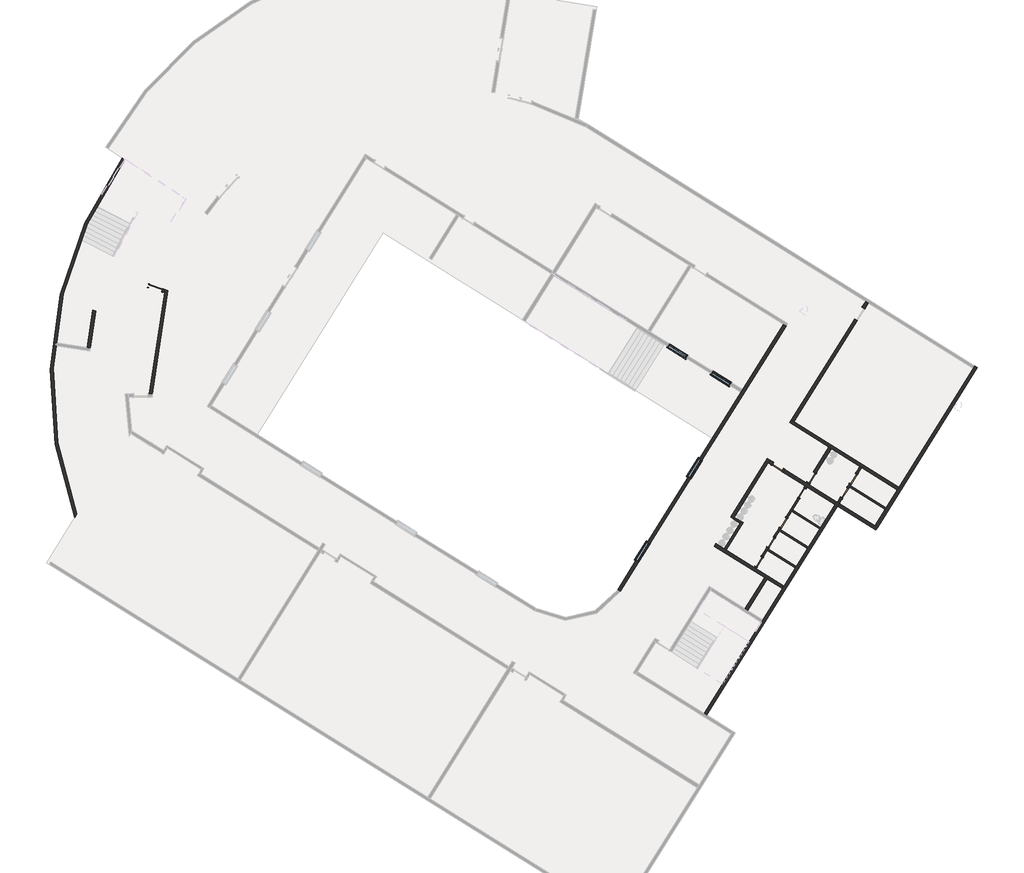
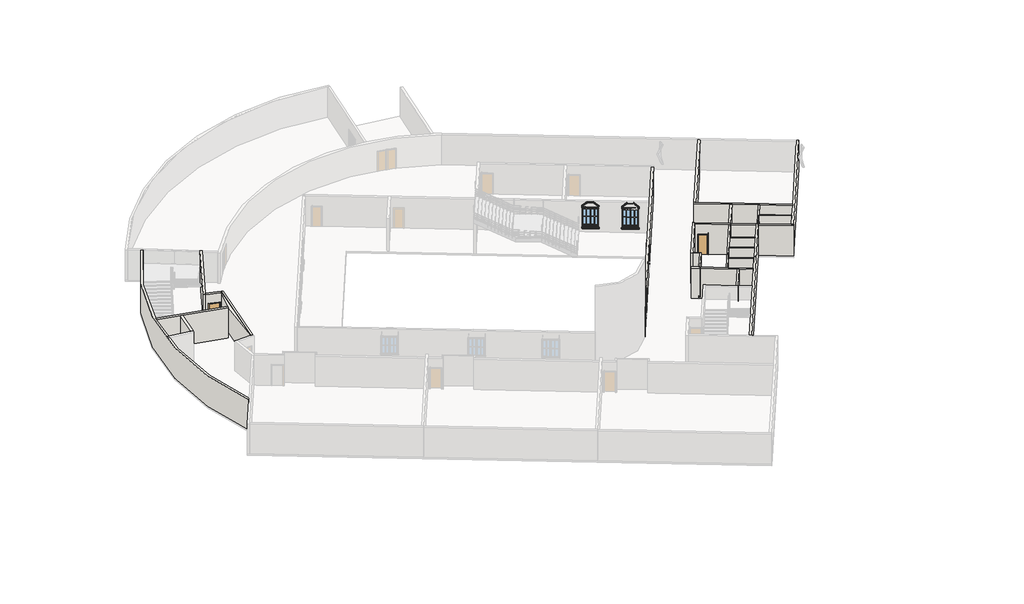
# One storey, part 2 of 4: 25 walls, 9 doors, 4 windows.
"""IFC4 building model written with IfcOpenShell, lengths in millimetres."""

from ifc_helpers import new_model, si_unit, frame, origin, place, context, project, spatial, polyline, circle_curve, outline, extrude, faceted_brep, transform, mapped, element, save
from ifc_brep_helpers import plane_surface, cylinder_surface, revolved_surface, advanced_brep
from components import m_single_flush_0762_x_2032mm_e53dc8c7, m_single_flush_0762_x_2032mm_1c354163, m_single_flush_0762_x_2032mm_0c256fab, m_single_flush_0915_x_2134mm_727434cd, m_window_casement_double_1400_x_1800mm_877d247a, m_window_casement_double_1400_x_1800mm_eb8f2d9a

model = new_model("IFC4")

# Units and contexts
model_context = context("Model", 3, world=origin())
ifc_project = project(units=[si_unit("LENGTHUNIT", "METRE", prefix="MILLI")], contexts=[model_context])

# Site, building, storey
site = spatial("IfcSite", under=ifc_project)
building = spatial("IfcBuilding", under=site)
storey = spatial("IfcBuildingStorey", under=building, Name="\u200fمنفی", Elevation=-3600.0)

# Doors
placement = place(None, origin())
m_single_flush_0762_x_2032mm_shape = m_single_flush_0762_x_2032mm_e53dc8c7(model_context)
element("IfcDoor", 1, ObjectType="M_Single-Flush : 0762 x 2032mm", at=placement, inside=storey, context=model_context, shape_type="MappedRepresentation", body=[
    mapped(m_single_flush_0762_x_2032mm_shape, transform((56199.6460159, -40782.0527704, -3600.0), x_axis=(-0.5299192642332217, -0.8480480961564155, 0.0), y_axis=(0.8480480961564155, -0.5299192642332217, 0.0), z_axis=(0.0, 0.0, 1.0))),
])
element("IfcDoor", 2, ObjectType="M_Single-Flush : 0762 x 2032mm", at=placement, inside=storey, context=model_context, shape_type="MappedRepresentation", body=[
    mapped(m_single_flush_0762_x_2032mm_shape, transform((52799.2588215, -41725.4772336, -3600.0), x_axis=(0.5299192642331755, 0.8480480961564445, 0.0), y_axis=(-0.8480480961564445, 0.5299192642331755, 0.0), z_axis=(0.0, 0.0, 1.0))),
])
element("IfcDoor", 3, ObjectType="M_Single-Flush : 0762 x 2032mm", at=placement, inside=storey, context=model_context, shape_type="MappedRepresentation", body=[
    mapped(m_single_flush_0762_x_2032mm_shape, transform((51568.7862899, -43694.6449128, -3600.0), x_axis=(-0.5299192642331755, -0.8480480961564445, 0.0), y_axis=(0.8480480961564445, -0.5299192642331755, 0.0), z_axis=(0.0, 0.0, 1.0))),
])
element("IfcDoor", 4, ObjectType="M_Single-Flush : 0762 x 2032mm", at=placement, inside=storey, context=model_context, shape_type="MappedRepresentation", body=[
    mapped(m_single_flush_0762_x_2032mm_shape, transform((50761.1893312, -44987.0702114, -3600.0), x_axis=(-0.5299192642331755, -0.8480480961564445, 0.0), y_axis=(0.8480480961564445, -0.5299192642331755, 0.0), z_axis=(0.0, 0.0, 1.0))),
])
element("IfcDoor", 5, ObjectType="M_Single-Flush : 0762 x 2032mm", at=placement, inside=storey, context=model_context, shape_type="MappedRepresentation", body=[
    mapped(m_single_flush_0762_x_2032mm_shape, transform((49953.5923725, -46279.4955099, -3600.0), x_axis=(-0.5299192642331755, -0.8480480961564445, 0.0), y_axis=(0.8480480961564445, -0.5299192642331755, 0.0), z_axis=(0.0, 0.0, 1.0))),
])
m_single_flush_0762_x_2032mm_2_shape = m_single_flush_0762_x_2032mm_1c354163(model_context)
element("IfcDoor", 6, ObjectType="M_Single-Flush : 0762 x 2032mm", at=placement, inside=storey, context=model_context, shape_type="MappedRepresentation", body=[
    mapped(m_single_flush_0762_x_2032mm_2_shape, transform((55624.1536949, -41703.0330029, -3600.0), x_axis=(0.5299192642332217, 0.8480480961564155, 0.0), y_axis=(-0.8480480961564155, 0.5299192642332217, 0.0), z_axis=(0.0, 0.0, 1.0))),
])
m_single_flush_0762_x_2032mm_3_shape = m_single_flush_0762_x_2032mm_0c256fab(model_context)
element("IfcDoor", 7, ObjectType="M_Single-Flush : 0762 x 2032mm", at=placement, inside=storey, context=model_context, shape_type="MappedRepresentation", body=[
    mapped(m_single_flush_0762_x_2032mm_3_shape, transform((53436.3159523, -40706.1822692, -3600.0), x_axis=(-0.5299192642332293, -0.8480480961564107, 0.0), y_axis=(0.8480480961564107, -0.5299192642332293, 0.0), z_axis=(0.0, 0.0, 1.0))),
])
element("IfcDoor", 8, ObjectType="M_Single-Flush : 0762 x 2032mm", at=placement, inside=storey, context=model_context, shape_type="MappedRepresentation", body=[
    mapped(m_single_flush_0762_x_2032mm_3_shape, transform((51200.5159697, -39994.2020354, -3600.0), x_axis=(-0.8480480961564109, 0.5299192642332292, 0.0), y_axis=(-0.5299192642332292, -0.8480480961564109, 0.0), z_axis=(0.0, 0.0, 1.0))),
])
m_single_flush_0915_x_2134mm_shape = m_single_flush_0915_x_2134mm_727434cd(model_context)
element("IfcDoor", 9, ObjectType="M_Single-Flush : 0915 x 2134mm", at=placement, inside=storey, context=model_context, shape_type="MappedRepresentation", body=[
    mapped(m_single_flush_0915_x_2134mm_shape, transform((10046.2970792, -28155.5122882, -3600.0), x_axis=(-0.9492034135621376, 0.3146631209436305, 0.0), y_axis=(-0.3146631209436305, -0.9492034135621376, 0.0), z_axis=(0.0, 0.0, 1.0))),
])

# Walls
element("IfcWall", 10, ObjectType="Generic - 200mm", at=placement, inside=storey, context=model_context, shape_type="AdvancedBrep", body=[
    advanced_brep(
    [(12127.9583762, -22106.4886885, -3600.0), (12295.5409419, -22216.1392689, -3600.0), (9371.3471797, -27826.3938849, -3600.0), (9307.5063397, -28015.9529504, -3600.0), (9117.665657, -27953.0203262, -3600.0), (12010.6126533, -22268.7384634, -3600.0), (9117.665657, -27953.0203262, -450.0), (12010.6232883, -22268.7232659, -450.0), (12127.9583762, -22106.4886885, -450.0), (12295.5409419, -22216.1392689, -450.0), (9371.3410113, -27826.4112985, -450.0), (9307.5063397, -28015.9529504, -450.0)],
    [
        (0, 1),
        (1, 2, circle_curve(frame((29284.4488792, -34638.3554793, -3600.0), z_axis=(0.0, 0.0, 1.0), x_axis=(1.0, 0.0, 0.0)), 21046.0078989)),
        (2, 3, circle_curve(frame((29284.4488792, -34638.3554793, -3600.0), z_axis=(0.0, 0.0, 1.0), x_axis=(1.0, 0.0, 0.0)), 21046.0076988)),
        (3, 4),
        (4, 5, circle_curve(frame((29284.4488792, -34638.3554793, -3600.0), z_axis=(0.0, 0.0, -1.0), x_axis=(1.0, 0.0, 0.0)), 21246.0078989)),
        (5, 0, circle_curve(frame((29284.4488792, -34638.3554793, -3600.0), z_axis=(0.0, 0.0, -1.0), x_axis=(1.0, 0.0, 0.0)), 21246.0076974)),
        (6, 7, circle_curve(frame((29284.4488792, -34638.3554793, -450.0), z_axis=(0.0, 0.0, -1.0), x_axis=(1.0, 0.0, 0.0)), 21246.0078989)),
        (7, 8, circle_curve(frame((29284.4488792, -34638.3554793, -450.0), z_axis=(0.0, 0.0, -1.0), x_axis=(1.0, 0.0, 0.0)), 21246.0078989)),
        (8, 0),
        (4, 6),
        (9, 10, circle_curve(frame((29284.4488792, -34638.3554793, -450.0), z_axis=(0.0, 0.0, 1.0), x_axis=(1.0, 0.0, 0.0)), 21046.0078989)),
        (10, 11, circle_curve(frame((29284.4488792, -34638.3554793, -450.0), z_axis=(0.0, 0.0, 1.0), x_axis=(1.0, 0.0, 0.0)), 21046.0078989)),
        (11, 3),
        (1, 9),
        (8, 9),
        (11, 6),
    ],
    [
        plane_surface(frame((50530.456778, -34638.3554793, -3600.0), z_axis=(0.0, 0.0, -1.0), x_axis=(0.0, -1.0, 0.0))),
        cylinder_surface(frame((29284.4488792, -34638.3554793, -3600.0), z_axis=(0.0, 0.0, 1.0), x_axis=(1.0, 0.0, 0.0)), 21246.0078989),
        revolved_surface(polyline([(50330.4567781, -34638.3554793, -3600.0), (50330.4567781, -34638.3554793, -450.0)]), (29284.4488792, -34638.3554793, -3600.0), (0.0, 0.0, -1.0)),
        plane_surface(frame((8116.6170805, -19481.8367786, -3600.0), z_axis=(0.5475199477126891, 0.8367926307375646, 0.0), x_axis=(-0.8367926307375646, 0.5475199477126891, 0.0))),
        plane_surface(frame((9117.665657, -27953.0203262, -3600.0), z_axis=(-0.3146631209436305, -0.9492034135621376, 0.0), x_axis=(0.9492034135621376, -0.3146631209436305, 0.0))),
        plane_surface(frame((44363.2360879, -73226.0361772, -450.0), z_axis=(0.0, 0.0, 1.0), x_axis=(-0.8480480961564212, 0.5299192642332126, 0.0))),
    ],
    [
        (0, [[1, 2, 3, 4, 5, 6]]),
        (1, [[7, 8, 9, -6, -5, 10]]),
        (2, [[11, 12, 13, -3, -2, 14]]),
        (3, [[15, -14, -1, -9]]),
        (4, [[16, -10, -4, -13]]),
        (5, [[-8, -7, -16, -12, -11, -15]]),
    ],
),
])
element("IfcWall", 11, ObjectType="Generic - 200mm", at=placement, inside=storey, context=model_context, shape_type="AdvancedBrep", body=[
    advanced_brep(
    [(4833.0156697, -43121.3147404, -3600.0), (4699.4334687, -43335.0909491, -3600.0), (7839.1778843, -19540.1606528, -3600.0), (8006.7112221, -19649.7539073, -3600.0), (3860.9981136, -28909.8584765, -3600.0), (3818.4495015, -29105.3791884, -3600.0), (8006.7112221, -19649.7539073, -450.0), (3860.9970863, -28909.8627746, -450.0), (3818.4497734, -29105.3772639, -450.0), (4833.0156697, -43121.3147404, -450.0), (4699.4334687, -43335.0909491, -450.0), (7839.1778843, -19540.1606528, -450.0)],
    [
        (0, 1),
        (1, 2, circle_curve(frame((28463.2186017, -34366.1157481, -3600.0), z_axis=(0.0, 0.0, -1.0), x_axis=(1.0, 0.0, 0.0)), 25400.0)),
        (2, 3),
        (3, 4, circle_curve(frame((28463.2186017, -34366.1157481, -3600.0), z_axis=(0.0, 0.0, 1.0), x_axis=(1.0, 0.0, 0.0)), 25200.0)),
        (4, 5, circle_curve(frame((28463.2186017, -34366.1157481, -3600.0), z_axis=(0.0, 0.0, 1.0), x_axis=(1.0, 0.0, 0.0)), 25199.9999277)),
        (5, 0, circle_curve(frame((28463.2186017, -34366.1157481, -3600.0), z_axis=(0.0, 0.0, 1.0), x_axis=(1.0, 0.0, 0.0)), 25199.9998641)),
        (6, 7, circle_curve(frame((28463.2186017, -34366.1157481, -450.0), z_axis=(0.0, 0.0, 1.0), x_axis=(1.0, 0.0, 0.0)), 25200.0)),
        (7, 8, circle_curve(frame((28463.2186017, -34366.1157481, -450.0), z_axis=(0.0, 0.0, 1.0), x_axis=(1.0, 0.0, 0.0)), 25200.0)),
        (8, 9, circle_curve(frame((28463.2186017, -34366.1157481, -450.0), z_axis=(0.0, 0.0, 1.0), x_axis=(1.0, 0.0, 0.0)), 25200.0)),
        (9, 0),
        (3, 6),
        (10, 11, circle_curve(frame((28463.2186017, -34366.1157481, -450.0), z_axis=(0.0, 0.0, -1.0), x_axis=(1.0, 0.0, 0.0)), 25400.0)),
        (11, 2),
        (1, 10),
        (9, 10),
        (11, 6),
    ],
    [
        plane_surface(frame((53663.2186017, -34366.1157481, -3600.0), z_axis=(0.0, 0.0, -1.0), x_axis=(0.0, 1.0, 0.0))),
        revolved_surface(polyline([(53663.2186017, -34366.1157481, -3600.0), (53663.2186017, -34366.1157481, -450.0)]), (28463.2186017, -34366.1157481, -3600.0), (0.0, 0.0, -1.0)),
        cylinder_surface(frame((28463.2186017, -34366.1157481, -3600.0), z_axis=(0.0, 0.0, 1.0), x_axis=(1.0, 0.0, 0.0)), 25400.0),
        plane_surface(frame((4413.835552, -43792.1431566, -3600.0), z_axis=(0.8480480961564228, -0.5299192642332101, 0.0), x_axis=(-0.5299192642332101, -0.8480480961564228, 0.0))),
        plane_surface(frame((13319.1960779, -23124.9577832, -3600.0), z_axis=(0.5474320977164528, 0.8368501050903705, 0.0), x_axis=(0.8368501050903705, -0.5474320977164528, 0.0))),
        plane_surface(frame((44363.2360879, -73226.0361772, -450.0), z_axis=(0.0, 0.0, 1.0), x_axis=(-0.8480480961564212, 0.5299192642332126, 0.0))),
    ],
    [
        (0, [[1, 2, 3, 4, 5, 6]]),
        (1, [[7, 8, 9, 10, -6, -5, -4, 11]]),
        (2, [[12, 13, -2, 14]]),
        (3, [[15, -14, -1, -10]]),
        (4, [[16, -11, -3, -13]]),
        (5, [[-9, -8, -7, -16, -12, -15]]),
    ],
),
])
element("IfcWall", 12, ObjectType="Generic - 200mm", at=placement, inside=storey, context=model_context, shape_type="AdvancedBrep", body=[
    advanced_brep(
    [(9307.5063397, -28015.9529504, -3600.0), (9580.5702054, -28106.4742517, -3600.0), (9580.5702054, -28106.4742517, -1466.0), (10449.0913288, -28394.3910074, -1466.0), (10449.0913288, -28394.3910074, -3600.0), (10600.7215267, -28444.6567677, -3600.0), (10600.7215267, -28444.6567677, -450.0), (9307.5063397, -28015.9529504, -450.0), (9643.5028296, -27916.633569, -1466.0), (9643.5028296, -27916.633569, -3600.0), (9371.3410113, -27826.4112985, -3600.0), (9371.3410113, -27826.4112985, -450.0), (10664.6186376, -28255.1358146, -450.0), (10664.6186376, -28255.1358146, -3600.0), (10512.023953, -28204.5503247, -3600.0), (10512.023953, -28204.5503247, -1466.0)],
    [
        (0, 1),
        (1, 2),
        (2, 3),
        (3, 4),
        (4, 5),
        (5, 6),
        (6, 7),
        (7, 0),
        (8, 9),
        (9, 10),
        (10, 11),
        (11, 12),
        (12, 13),
        (13, 14),
        (14, 15),
        (15, 8),
        (13, 5, circle_curve(frame((29284.4488792, -34638.3554793, -3600.0), z_axis=(0.0, 0.0, 1.0), x_axis=(1.0, 0.0, 0.0)), 19683.5863478)),
        (4, 14),
        (9, 1),
        (0, 10, circle_curve(frame((29284.4488792, -34638.3554793, -3600.0), z_axis=(0.0, 0.0, -1.0), x_axis=(1.0, 0.0, 0.0)), 21046.0078989)),
        (7, 11, circle_curve(frame((29284.4488792, -34638.3554793, -450.0), z_axis=(0.0, 0.0, -1.0), x_axis=(1.0, 0.0, 0.0)), 21046.0078989)),
        (12, 6, circle_curve(frame((29284.4488792, -34638.3554793, -450.0), z_axis=(0.0, 0.0, 1.0), x_axis=(1.0, 0.0, 0.0)), 19683.5863478)),
        (8, 2),
        (15, 3),
    ],
    [
        plane_surface(frame((9117.665657, -27953.0203262, -3600.0), z_axis=(-0.3146631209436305, -0.9492034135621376, 0.0), x_axis=(0.9492034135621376, -0.3146631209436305, 0.0))),
        plane_surface(frame((9180.5982812, -27763.1796435, -3600.0), z_axis=(0.3146631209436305, 0.9492034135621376, 0.0), x_axis=(-0.9492034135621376, 0.3146631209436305, 0.0))),
        plane_surface(frame((9212.8104399, -27984.5610412, -3600.0), z_axis=(0.0, 0.0, -1.0000000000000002), x_axis=(0.3146631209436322, 0.949203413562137, 0.0))),
        cylinder_surface(frame((29284.4488792, -34638.3554793, -3600.0), z_axis=(0.0, 0.0, -1.0), x_axis=(1.0, 0.0, 0.0)), 21046.0078989),
        revolved_surface(polyline([(48968.035227, -34638.3554793, -450.0), (48968.035227, -34638.3554793, -3600.0)]), (29284.4488792, -34638.3554793, -3600.0), (0.0, 0.0, 1.0)),
        plane_surface(frame((9580.5702054, -28106.4742517, -3600.0), z_axis=(0.9492034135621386, -0.3146631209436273, 0.0), x_axis=(0.3146631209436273, 0.9492034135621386, 0.0))),
        plane_surface(frame((9580.5702054, -28106.4742517, -1466.0), z_axis=(0.0, 0.0, -1.0), x_axis=(0.3146631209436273, 0.9492034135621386, 0.0))),
        plane_surface(frame((10449.0913288, -28394.3910074, -1466.0), z_axis=(-0.9492034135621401, 0.3146631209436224, 0.0), x_axis=(0.3146631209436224, 0.9492034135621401, 0.0))),
        plane_surface(frame((44363.2360879, -73226.0361772, -450.0), z_axis=(0.0, 0.0, 1.0), x_axis=(-0.8480480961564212, 0.5299192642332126, 0.0))),
    ],
    [
        (0, [[1, 2, 3, 4, 5, 6, 7, 8]]),
        (1, [[9, 10, 11, 12, 13, 14, 15, 16]]),
        (2, [[-14, 17, -5, 18]]),
        (2, [[-10, 19, -1, 20]]),
        (3, [[-8, 21, -11, -20]]),
        (4, [[-6, -17, -13, 22]]),
        (5, [[-2, -19, -9, 23]]),
        (6, [[-3, -23, -16, 24]]),
        (7, [[-4, -24, -15, -18]]),
        (8, [[-7, -22, -12, -21]]),
    ],
),
])
element("IfcWall", 13, ObjectType="Generic - 200mm", at=placement, inside=storey, context=model_context, shape_type="AdvancedBrep", body=[
    advanced_brep(
    [(3818.4497734, -29105.3772639, -3600.0), (5894.1620192, -29622.9104526, -3600.0), (6088.9624389, -29671.4796522, -3600.0), (10009.3816919, -30648.9499549, -3600.0), (10009.3816919, -30648.9499549, -450.0), (6088.9624389, -29671.4796522, -450.0), (5894.1620192, -29622.9104526, -450.0), (3818.4497734, -29105.3772639, -450.0), (3860.9970863, -28909.8627746, -3600.0), (3860.9970863, -28909.8627746, -450.0), (10050.9378243, -30453.1883365, -450.0), (10050.9378243, -30453.1883365, -3600.0)],
    [
        (0, 1),
        (1, 2),
        (2, 3),
        (3, 4),
        (4, 5),
        (5, 6),
        (6, 7),
        (7, 0),
        (8, 9),
        (9, 10),
        (10, 11),
        (11, 8),
        (0, 8, circle_curve(frame((28463.2186017, -34366.1157481, -3600.0), z_axis=(0.0, 0.0, -1.0), x_axis=(1.0, 0.0, 0.0)), 25200.0)),
        (11, 3, circle_curve(frame((29284.4488792, -34638.3554793, -3600.0), z_axis=(0.0, 0.0, 1.0), x_axis=(1.0, 0.0, 0.0)), 19683.5863478)),
        (10, 4, circle_curve(frame((29284.4488792, -34638.3554793, -450.0), z_axis=(0.0, 0.0, 1.0), x_axis=(1.0, 0.0, 0.0)), 19683.5863478)),
        (7, 9, circle_curve(frame((28463.2186017, -34366.1157481, -450.0), z_axis=(0.0, 0.0, -1.0), x_axis=(1.0, 0.0, 0.0)), 25200.0)),
    ],
    [
        plane_surface(frame((6088.9624389, -29671.4796522, -3600.0), z_axis=(-0.24192189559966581, -0.970295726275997, 0.0), x_axis=(0.970295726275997, -0.24192189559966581, 0.0))),
        plane_surface(frame((6137.346818, -29477.420507, -3600.0), z_axis=(0.24192189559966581, 0.970295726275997, 0.0), x_axis=(-0.970295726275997, 0.24192189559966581, 0.0))),
        plane_surface(frame((3718.2651778, -29080.3984387, -3600.0), z_axis=(0.0, 0.0, -1.0), x_axis=(0.2419218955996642, 0.9702957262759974, 0.0))),
        revolved_surface(polyline([(48968.035227, -34638.3554793, -450.0), (48968.035227, -34638.3554793, -3600.0)]), (29284.4488792, -34638.3554793, -3600.0), (0.0, 0.0, 1.0)),
        cylinder_surface(frame((28463.2186017, -34366.1157481, -3600.0), z_axis=(0.0, 0.0, -1.0), x_axis=(1.0, 0.0, 0.0)), 25200.0),
        plane_surface(frame((44363.2360879, -73226.0361772, -450.0), z_axis=(0.0, 0.0, 1.0), x_axis=(-0.8480480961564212, 0.5299192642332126, 0.0))),
    ],
    [
        (0, [[1, 2, 3, 4, 5, 6, 7, 8]]),
        (1, [[9, 10, 11, 12]]),
        (2, [[-3, -2, -1, 13, -12, 14]]),
        (3, [[-4, -14, -11, 15]]),
        (4, [[-8, 16, -9, -13]]),
        (5, [[-7, -6, -5, -15, -10, -16]]),
    ],
),
])
element("IfcWall", 14, ObjectType="Generic - 200mm", at=placement, inside=storey, context=model_context, shape_type="Brep", body=[
    faceted_brep([(46503.9173044, -56415.4611664, -3600.0), (55149.463009, -42579.6958529, -3600.0), (55255.4468618, -42410.0862337, -3600.0), (55255.4468618, -42410.0862337, -450.0), (55149.463009, -42579.6958529, -450.0), (46503.9173044, -56415.4611664, -450.0), (55085.8372426, -42304.1023809, -3600.0), (54979.8533898, -42473.7120001, -3600.0), (54025.9987141, -44000.1985732, -3600.0), (53960.2887254, -44105.3565371, -3600.0), (53218.4017555, -45292.6238717, -3600.0), (53152.6917667, -45397.7818356, -3600.0), (52410.8047968, -46585.0491702, -3600.0), (52345.094808, -46690.2071342, -3600.0), (51603.2078381, -47877.4744688, -3600.0), (51497.2239852, -48047.084088, -3600.0), (50202.7183141, -50118.7262116, -3600.0), (50096.7344612, -50288.3358308, -3600.0), (46334.3076852, -56309.4773135, -3600.0), (46334.3076852, -56309.4773135, -450.0), (50096.7344612, -50288.3358308, -450.0), (50202.7183141, -50118.7262116, -450.0), (51497.2239852, -48047.084088, -450.0), (51603.2078381, -47877.4744688, -450.0), (52345.094808, -46690.2071342, -450.0), (52410.8047968, -46585.0491702, -450.0), (53152.6917667, -45397.7818356, -450.0), (53218.4017555, -45292.6238717, -450.0), (53960.2887254, -44105.3565371, -450.0), (54025.9987141, -44000.1985732, -450.0), (54979.8533898, -42473.7120001, -450.0), (55085.8372426, -42304.1023809, -450.0), (55150.2888979, -42344.3762449, -3600.0), (55150.2888979, -42344.3762449, -450.0)], [[[0, 1, 2, 3, 4, 5]], [[6, 7, 8, 9, 10, 11, 12, 13, 14, 15, 16, 17, 18, 19, 20, 21, 22, 23, 24, 25, 26, 27, 28, 29, 30, 31]], [[2, 1, 0, 18, 17, 16, 15, 14, 13, 12, 11, 10, 9, 8, 7, 6, 32]], [[0, 5, 19, 18]], [[3, 2, 32, 6, 31, 33]], [[5, 4, 3, 33, 31, 30, 29, 28, 27, 26, 25, 24, 23, 22, 21, 20, 19]]]),
])
element("IfcWall", 15, ObjectType="Generic - 200mm", at=placement, inside=storey, context=model_context, shape_type="SweptSolid", body=[
    extrude(outline(polyline([(49029.2291413, -49385.4487928), (50323.7348125, -47313.8066692), (50493.3444317, -47419.790522), (49198.8387606, -49491.4326456), (49029.2291413, -49385.4487928)])), frame((0.0, 0.0, -3600.0), z_axis=(0.0, 0.0, 1.0), x_axis=(1.0, 0.0, 0.0)), (0.0, 0.0, 1.0), 3150.0),
])
element("IfcWall", 16, ObjectType="Generic - 200mm", at=placement, inside=storey, context=model_context, shape_type="Brep", body=[
    faceted_brep([(47002.5690756, -45238.5119876, -3600.0), (50323.7348125, -47313.8066692, -3600.0), (50493.3444317, -47419.790522, -3600.0), (51497.2239852, -48047.084088, -3600.0), (51497.2239852, -48047.084088, -450.0), (50493.3444317, -47419.790522, -450.0), (50323.7348125, -47313.8066692, -450.0), (47002.5690756, -45238.5119876, -450.0), (47108.5529284, -45068.9023684, -3600.0), (47108.5529284, -45068.9023684, -450.0), (47670.529572, -45420.0643494, -450.0), (47775.6877021, -45485.774442, -450.0), (49646.1222245, -46654.5516498, -450.0), (49751.2801884, -46720.2616386, -450.0), (51603.2078381, -47877.4744688, -450.0), (51603.2078381, -47877.4744688, -3600.0), (49751.2801884, -46720.2616386, -3600.0), (49646.1222245, -46654.5516498, -3600.0), (47775.6877021, -45485.774442, -3600.0), (47670.529572, -45420.0643494, -3600.0)], [[[0, 1, 2, 3, 4, 5, 6, 7]], [[8, 9, 10, 11, 12, 13, 14, 15, 16, 17, 18, 19]], [[3, 2, 1, 0, 8, 19, 18, 17, 16, 15]], [[0, 7, 9, 8]], [[4, 3, 15, 14]], [[7, 6, 5, 4, 14, 13, 12, 11, 10, 9]]]),
])
element("IfcWall", 17, ObjectType="Generic - 200mm", at=placement, inside=storey, context=model_context, shape_type="Brep", body=[
    faceted_brep([(50506.3775234, -39442.538354, -3600.0), (48083.7478596, -43319.5562559, -3600.0), (48083.7478596, -43319.5562559, -450.0), (50506.3775234, -39442.538354, -450.0), (50675.9871426, -39548.5222068, -3600.0), (50675.9871426, -39548.5222068, -450.0), (50570.0032897, -39718.1318261, -450.0), (48319.25596, -43320.0804941, -450.0), (48253.5458674, -43425.2386241, -450.0), (48253.5458674, -43425.2386241, -3600.0), (48319.25596, -43320.0804941, -3600.0), (50570.0032897, -39718.1318261, -3600.0)], [[[0, 1, 2, 3]], [[4, 5, 6, 7, 8, 9, 10, 11]], [[1, 0, 4, 11, 10, 9]], [[0, 3, 5, 4]], [[2, 1, 9, 8]], [[3, 2, 8, 7, 6, 5]]]),
])
element("IfcWall", 18, ObjectType="Generic - 200mm", at=placement, inside=storey, context=model_context, shape_type="Brep", body=[
    faceted_brep([(50930.4015714, -39707.4979861, -1568.0), (50930.4015714, -39707.4979861, -3600.0), (50675.9871426, -39548.5222068, -3600.0), (50675.9871426, -39548.5222068, -450.0), (53096.6199766, -41061.1014771, -450.0), (53266.2295959, -41167.0853299, -450.0), (55085.8372426, -42304.1023809, -450.0), (55085.8372426, -42304.1023809, -3600.0), (53266.2295959, -41167.0853299, -3600.0), (53096.6199766, -41061.1014771, -3600.0), (51576.6142207, -40111.2964655, -3600.0), (51576.6142207, -40111.2964655, -1568.0), (50570.0032897, -39718.1318261, -3600.0), (50824.4177186, -39877.1076053, -3600.0), (50824.4177186, -39877.1076053, -1568.0), (51470.6303679, -40280.9060847, -1568.0), (51470.6303679, -40280.9060847, -3600.0), (53022.7677762, -41250.7891811, -3600.0), (53127.9257401, -41316.4991699, -3600.0), (54979.8533898, -42473.7120001, -3600.0), (54979.8533898, -42473.7120001, -450.0), (53127.9257401, -41316.4991699, -450.0), (53022.7677762, -41250.7891811, -450.0), (50570.0032897, -39718.1318261, -450.0)], [[[0, 1, 2, 3, 4, 5, 6, 7, 8, 9, 10, 11]], [[12, 13, 14, 15, 16, 17, 18, 19, 20, 21, 22, 23]], [[2, 1, 13, 12]], [[10, 9, 8, 7, 19, 18, 17, 16]], [[7, 6, 20, 19]], [[3, 2, 12, 23]], [[14, 13, 1, 0]], [[15, 14, 0, 11]], [[16, 15, 11, 10]], [[6, 5, 4, 3, 23, 22, 21, 20]]]),
])
element("IfcWall", 19, ObjectType="Generic - 200mm", at=placement, inside=storey, context=model_context, shape_type="SweptSolid", body=[
    extrude(outline(polyline([(-2799.9999999, 0.0), (-2700.0, 0.0), (-2700.0, -2032.0), (-1938.0, -2032.0), (-1938.0, 0.0), (0.0, 0.0), (0.0, -3150.0), (-2799.9999999, -3150.0), (-2799.9999999, 0.0)])), frame((54750.0035357, -38792.5506607, -3600.0), z_axis=(-0.8480480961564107, 0.5299192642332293, 0.0), x_axis=(0.5299192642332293, 0.8480480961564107, 0.0)), (0.0, 0.0, 1.0), 200.0),
])
element("IfcWall", 20, ObjectType="Generic - 200mm", at=placement, inside=storey, context=model_context, shape_type="Brep", body=[
    faceted_brep([(51990.1514632, -37068.0036848, -3600.0), (54580.3939165, -38686.5668078, -3600.0), (54750.0035357, -38792.5506607, -3600.0), (56634.0628378, -39969.8415757, -3600.0), (56739.2208017, -40035.5515645, -3600.0), (59113.7554709, -41519.3255043, -3600.0), (59113.7554709, -41519.3255043, -450.0), (56739.2208017, -40035.5515645, -450.0), (56634.0628378, -39969.8415757, -450.0), (54750.0035357, -38792.5506607, -450.0), (54580.3939165, -38686.5668078, -450.0), (51990.1514632, -37068.0036848, -450.0), (52096.1353161, -36898.3940655, -3600.0), (52096.1353161, -36898.3940655, -450.0), (52265.7449353, -37004.3779184, -450.0), (59219.7393238, -41349.7158851, -450.0), (59219.7393238, -41349.7158851, -3600.0), (52265.7449353, -37004.3779184, -3600.0)], [[[0, 1, 2, 3, 4, 5, 6, 7, 8, 9, 10, 11]], [[12, 13, 14, 15, 16, 17]], [[5, 4, 3, 2, 1, 0, 12, 17, 16]], [[0, 11, 13, 12]], [[6, 5, 16, 15]], [[11, 10, 9, 8, 7, 6, 15, 14, 13]]]),
])
element("IfcWall", 21, ObjectType="Generic - 200mm", at=placement, inside=storey, context=model_context, shape_type="SweptSolid", body=[
    extrude(outline(polyline([(3630.0, -2134.0), (3630.0, 0.0), (4087.4, 0.0), (4087.4, -3150.0), (-5185.0, -3150.0), (-5185.0, 0.0), (2715.0, 0.0), (2715.0, -2134.0), (3630.0, -2134.0)])), frame((55013.3763203, -32607.2485398, -3600.0), z_axis=(-0.8480480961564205, 0.5299192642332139, 0.0), x_axis=(0.5299192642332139, 0.8480480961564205, 0.0)), (0.0, 0.0, 1.0), 200.0),
])
element("IfcWall", 22, ObjectType="Generic - 200mm", at=placement, inside=storey, context=model_context, shape_type="Brep", body=[
    faceted_brep([(55149.463009, -42579.6958529, -3600.0), (57693.6072975, -44169.4536456, -3600.0), (57693.6072975, -44169.4536456, -450.0), (55149.463009, -42579.6958529, -450.0), (55255.4468618, -42410.0862337, -3600.0), (55255.4468618, -42410.0862337, -450.0), (57629.9815311, -43893.8601736, -450.0), (57799.5911503, -43999.8440264, -450.0), (57799.5911503, -43999.8440264, -3600.0), (57629.9815311, -43893.8601736, -3600.0)], [[[0, 1, 2, 3]], [[4, 5, 6, 7, 8, 9]], [[1, 0, 4, 9, 8]], [[2, 1, 8, 7]], [[0, 3, 5, 4]], [[3, 2, 7, 6, 5]]]),
])
element("IfcWall", 23, ObjectType="Generic - 200mm", at=placement, inside=storey, context=model_context, shape_type="Brep", body=[
    faceted_brep([(57799.5911503, -43999.8440264, -3600.0), (64408.9561815, -33422.6489519, -3600.0), (64408.9561815, -33422.6489519, -450.0), (57799.5911503, -43999.8440264, -450.0), (57629.9815311, -43893.8601736, -3600.0), (57629.9815311, -43893.8601736, -450.0), (58306.1585122, -42811.7508029, -450.0), (58371.868501, -42706.5928389, -450.0), (59113.7554709, -41519.3255043, -450.0), (59219.7393238, -41349.7158851, -450.0), (64133.3627095, -33486.2747183, -450.0), (64239.3465623, -33316.6650991, -450.0), (64239.3465623, -33316.6650991, -3600.0), (64133.3627095, -33486.2747183, -3600.0), (59219.7393238, -41349.7158851, -3600.0), (59113.7554709, -41519.3255043, -3600.0), (58371.868501, -42706.5928389, -3600.0), (58306.1585122, -42811.7508029, -3600.0)], [[[0, 1, 2, 3]], [[4, 5, 6, 7, 8, 9, 10, 11, 12, 13, 14, 15, 16, 17]], [[1, 0, 4, 17, 16, 15, 14, 13, 12]], [[0, 3, 5, 4]], [[2, 1, 12, 11]], [[3, 2, 11, 10, 9, 8, 7, 6, 5]]]),
])
element("IfcWall", 24, ObjectType="Generic - 200mm", at=placement, inside=storey, context=model_context, shape_type="AdvancedBrep", body=[
    advanced_brep(
    [(10664.6186376, -28255.1358146, -3600.0), (10854.4692214, -28318.071721, -3600.0), (9807.874288, -35161.0209227, -3600.0), (9607.803018, -35161.0209227, -3600.0), (10009.3822388, -30648.9473164, -3600.0), (10050.9380095, -30453.188073, -3600.0), (10600.7163442, -28444.6729532, -3600.0), (9607.803018, -35161.0209227, -450.0), (10009.3820848, -30648.9480564, -450.0), (10050.9382226, -30453.186506, -450.0), (10600.7215267, -28444.6567677, -450.0), (10664.6186376, -28255.1358146, -450.0), (10854.4692214, -28318.071721, -450.0), (9807.874288, -35161.0209227, -450.0)],
    [
        (0, 1),
        (1, 2, circle_curve(frame((29284.4488792, -34638.3554793, -3600.0), z_axis=(0.0, 0.0, 1.0), x_axis=(1.0, 0.0, 0.0)), 19483.5863478)),
        (2, 3),
        (3, 4, circle_curve(frame((29284.4488792, -34638.3554793, -3600.0), z_axis=(0.0, 0.0, -1.0), x_axis=(1.0, 0.0, 0.0)), 19683.5863478)),
        (4, 5, circle_curve(frame((29284.4488792, -34638.3554793, -3600.0), z_axis=(0.0, 0.0, -1.0), x_axis=(1.0, 0.0, 0.0)), 19683.586347)),
        (5, 6, circle_curve(frame((29284.4488792, -34638.3554793, -3600.0), z_axis=(0.0, 0.0, -1.0), x_axis=(1.0, 0.0, 0.0)), 19683.5862228)),
        (6, 0, circle_curve(frame((29284.4488792, -34638.3554793, -3600.0), z_axis=(0.0, 0.0, -1.0), x_axis=(1.0, 0.0, 0.0)), 19683.5861741)),
        (7, 8, circle_curve(frame((29284.4488792, -34638.3554793, -450.0), z_axis=(0.0, 0.0, -1.0), x_axis=(1.0, 0.0, 0.0)), 19683.5863478)),
        (8, 9, circle_curve(frame((29284.4488792, -34638.3554793, -450.0), z_axis=(0.0, 0.0, -1.0), x_axis=(1.0, 0.0, 0.0)), 19683.5863478)),
        (9, 10, circle_curve(frame((29284.4488792, -34638.3554793, -450.0), z_axis=(0.0, 0.0, -1.0), x_axis=(1.0, 0.0, 0.0)), 19683.5863478)),
        (10, 11, circle_curve(frame((29284.4488792, -34638.3554793, -450.0), z_axis=(0.0, 0.0, -1.0), x_axis=(1.0, 0.0, 0.0)), 19683.5863478)),
        (11, 0),
        (3, 7),
        (12, 13, circle_curve(frame((29284.4488792, -34638.3554793, -450.0), z_axis=(0.0, 0.0, 1.0), x_axis=(1.0, 0.0, 0.0)), 19483.5863478)),
        (13, 2),
        (1, 12),
        (13, 7),
        (11, 12),
    ],
    [
        plane_surface(frame((48968.0352269, -34638.3554793, -3600.0), z_axis=(0.0, 0.0, -1.0), x_axis=(0.0, -1.0, 0.0))),
        cylinder_surface(frame((29284.4488792, -34638.3554793, -3600.0), z_axis=(0.0, 0.0, 1.0), x_axis=(1.0, 0.0, 0.0)), 19683.5863478),
        revolved_surface(polyline([(48768.035227, -34638.3554793, -3600.0), (48768.035227, -34638.3554793, -450.0)]), (29284.4488792, -34638.3554793, -3600.0), (0.0, 0.0, -1.0)),
        plane_surface(frame((8250.8518702, -35161.0209227, -3600.0), z_axis=(0.0, -1.0, 0.0), x_axis=(-1.0, 0.0, 0.0))),
        plane_surface(frame((9180.5982812, -27763.1796435, -3600.0), z_axis=(0.3146631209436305, 0.9492034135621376, 0.0), x_axis=(-0.9492034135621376, 0.3146631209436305, 0.0))),
        plane_surface(frame((44363.2360879, -73226.0361772, -450.0), z_axis=(0.0, 0.0, 1.0), x_axis=(-0.8480480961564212, 0.5299192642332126, 0.0))),
    ],
    [
        (0, [[1, 2, 3, 4, 5, 6, 7]]),
        (1, [[8, 9, 10, 11, 12, -7, -6, -5, -4, 13]]),
        (2, [[14, 15, -2, 16]]),
        (3, [[17, -13, -3, -15]]),
        (4, [[18, -16, -1, -12]]),
        (5, [[-11, -10, -9, -8, -17, -14, -18]]),
    ],
),
])
element("IfcWall", 25, ObjectType="Generic - 200mm", at=placement, inside=storey, context=model_context, shape_type="SweptSolid", body=[
    extrude(outline(polyline([(6088.9624389, -29671.4796522), (5702.0784662, -32114.1689208), (5504.5407981, -32082.8820278), (5894.1620192, -29622.9104526), (6088.9624389, -29671.4796522)])), frame((0.0, 0.0, -3600.0), z_axis=(0.0, 0.0, 1.0), x_axis=(1.0, 0.0, 0.0)), (0.0, 0.0, 1.0), 3150.0),
])
element("IfcWall", 26, ObjectType="Generic - 200mm", at=placement, inside=storey, context=model_context, shape_type="Brep", body=[
    faceted_brep([(40771.4554917, -48228.1825254, -3600.0), (51745.7504175, -30665.6394239, -3600.0), (51745.7504175, -30665.6394239, -450.0), (40771.4554917, -48228.1825254, -450.0), (41990.2697995, -46277.6719043, -1200.0), (42732.1567694, -45090.4045697, -1200.0), (42732.1567694, -45090.4045697, -3000.0), (41990.2697995, -46277.6719043, -3000.0), (45439.7111731, -40757.4117681, -1200.0), (46181.598143, -39570.1444335, -1200.0), (46181.598143, -39570.1444335, -3000.0), (45439.7111731, -40757.4117681, -3000.0), (40601.8458725, -48122.1986726, -3600.0), (40601.8458725, -48122.1986726, -450.0), (48767.5686978, -35054.3104807, -450.0), (48873.5525507, -34884.7008614, -450.0), (51576.1407983, -30559.655571, -450.0), (51576.1407983, -30559.655571, -3600.0), (48873.5525507, -34884.7008614, -3600.0), (48767.5686978, -35054.3104807, -3600.0), (41820.6601803, -46171.6880514, -1200.0), (41820.6601803, -46171.6880514, -3000.0), (42562.5471502, -44984.4207168, -3000.0), (42562.5471502, -44984.4207168, -1200.0), (45270.1015539, -40651.4279153, -1200.0), (45270.1015539, -40651.4279153, -3000.0), (46011.9885238, -39464.1605807, -3000.0), (46011.9885238, -39464.1605807, -1200.0)], [[[0, 1, 2, 3], [4, 5, 6, 7], [8, 9, 10, 11]], [[12, 13, 14, 15, 16, 17, 18, 19], [20, 21, 22, 23], [24, 25, 26, 27]], [[1, 0, 12, 19, 18, 17]], [[0, 3, 13, 12]], [[2, 1, 17, 16]], [[3, 2, 16, 15, 14, 13]], [[21, 20, 4, 7]], [[22, 21, 7, 6]], [[23, 22, 6, 5]], [[20, 23, 5, 4]], [[25, 24, 8, 11]], [[26, 25, 11, 10]], [[27, 26, 10, 9]], [[24, 27, 9, 8]]]),
])
element("IfcWall", 27, ObjectType="Interior - Blockwork 100", at=placement, inside=storey, context=model_context, shape_type="Brep", body=[
    faceted_brep([(48794.4586114, -43614.2672705, -3600.0), (48793.749979, -43615.4058178, -3600.0), (48728.2270142, -43720.6804163, -3600.0), (47670.529572, -45420.0643494, -3600.0), (47670.529572, -45420.0643494, -450.0), (48728.2270142, -43720.6804163, -450.0), (48793.749979, -43615.4058178, -450.0), (48794.4586114, -43614.2672705, -450.0), (48899.7332099, -43679.7902352, -3600.0), (48899.7332099, -43679.7902352, -450.0), (47775.6877021, -45485.774442, -450.0), (47775.6877021, -45485.774442, -3600.0)], [[[0, 1, 2, 3, 4, 5, 6, 7]], [[8, 9, 10, 11]], [[3, 2, 1, 0, 8, 11]], [[0, 7, 9, 8]], [[4, 3, 11, 10]], [[7, 6, 5, 4, 10, 9]]]),
])
element("IfcWall", 28, ObjectType="Interior - Blockwork 100", at=placement, inside=storey, context=model_context, shape_type="SweptSolid", body=[
    extrude(outline(polyline([(48319.25596, -43320.0804941), (48793.749979, -43615.4058178), (48728.2270142, -43720.6804163), (48253.5458674, -43425.2386241), (48319.25596, -43320.0804941)])), frame((0.0, 0.0, -3600.0), z_axis=(0.0, 0.0, 1.0), x_axis=(1.0, 0.0, 0.0)), (0.0, 0.0, 1.0), 3150.0),
])
element("IfcWall", 29, ObjectType="Interior - Blockwork 100", at=placement, inside=storey, context=model_context, shape_type="SweptSolid", body=[
    extrude(outline(polyline([(50558.8771471, -45427.83634), (52410.8047968, -46585.0491702), (52345.094808, -46690.2071342), (50493.1671583, -45532.9943039), (50558.8771471, -45427.83634)])), frame((0.0, 0.0, -3600.0), z_axis=(0.0, 0.0, 1.0), x_axis=(1.0, 0.0, 0.0)), (0.0, 0.0, 1.0), 3150.0),
])
element("IfcWall", 30, ObjectType="Interior - Blockwork 100", at=placement, inside=storey, context=model_context, shape_type="Brep", body=[
    faceted_brep([(49699.1141509, -46569.7468402, -1568.0), (49699.1141509, -46569.7468402, -3600.0), (49646.1222245, -46654.5516498, -3600.0), (49646.1222245, -46654.5516498, -450.0), (53022.7677762, -41250.7891811, -450.0), (53022.7677762, -41250.7891811, -3600.0), (52948.5790792, -41369.5159146, -3600.0), (52948.5790792, -41369.5159146, -1568.0), (52544.7805998, -42015.7285638, -1568.0), (52544.7805998, -42015.7285638, -3600.0), (51718.1065476, -43338.6835938, -3600.0), (51718.1065476, -43338.6835938, -1568.0), (51314.3080683, -43984.8962431, -1568.0), (51314.3080683, -43984.8962431, -3600.0), (50910.5095889, -44631.1088924, -3600.0), (50910.5095889, -44631.1088924, -1568.0), (50506.7111096, -45277.3215416, -1568.0), (50506.7111096, -45277.3215416, -3600.0), (50102.9126303, -45923.5341909, -3600.0), (50102.9126303, -45923.5341909, -1568.0), (49751.2801884, -46720.2616386, -3600.0), (49804.2721148, -46635.456829, -3600.0), (49804.2721148, -46635.456829, -1568.0), (50208.0705942, -45989.2441797, -1568.0), (50208.0705942, -45989.2441797, -3600.0), (50493.1671583, -45532.9943039, -3600.0), (50558.8771471, -45427.83634, -3600.0), (50611.8690735, -45343.0315304, -3600.0), (50611.8690735, -45343.0315304, -1568.0), (51015.6675529, -44696.8188811, -1568.0), (51015.6675529, -44696.8188811, -3600.0), (51300.764117, -44240.5690054, -3600.0), (51366.4741058, -44135.4110415, -3600.0), (51419.4660322, -44050.6062319, -3600.0), (51419.4660322, -44050.6062319, -1568.0), (51823.2645116, -43404.3935826, -1568.0), (51823.2645116, -43404.3935826, -3600.0), (52108.3610757, -42948.1437069, -3600.0), (52174.0710645, -42842.9857429, -3600.0), (52649.9385638, -42081.4385526, -3600.0), (52649.9385638, -42081.4385526, -1568.0), (53053.7370431, -41435.2259033, -1568.0), (53053.7370431, -41435.2259033, -3600.0), (53127.9257401, -41316.4991699, -3600.0), (53127.9257401, -41316.4991699, -450.0), (52174.0710645, -42842.9857429, -450.0), (52108.3610757, -42948.1437069, -450.0), (51366.4741058, -44135.4110415, -450.0), (51300.764117, -44240.5690054, -450.0), (50558.8771471, -45427.83634, -450.0), (50493.1671583, -45532.9943039, -450.0), (49751.2801884, -46720.2616386, -450.0)], [[[0, 1, 2, 3, 4, 5, 6, 7, 8, 9, 10, 11, 12, 13, 14, 15, 16, 17, 18, 19]], [[20, 21, 22, 23, 24, 25, 26, 27, 28, 29, 30, 31, 32, 33, 34, 35, 36, 37, 38, 39, 40, 41, 42, 43, 44, 45, 46, 47, 48, 49, 50, 51]], [[43, 42, 6, 5]], [[10, 9, 39, 38, 37, 36]], [[14, 13, 33, 32, 31, 30]], [[18, 17, 27, 26, 25, 24]], [[2, 1, 21, 20]], [[3, 2, 20, 51]], [[5, 4, 44, 43]], [[7, 6, 42, 41]], [[8, 7, 41, 40]], [[9, 8, 40, 39]], [[34, 33, 13, 12]], [[35, 34, 12, 11]], [[36, 35, 11, 10]], [[28, 27, 17, 16]], [[29, 28, 16, 15]], [[30, 29, 15, 14]], [[22, 21, 1, 0]], [[23, 22, 0, 19]], [[24, 23, 19, 18]], [[4, 3, 51, 50, 49, 48, 47, 46, 45, 44]]]),
])
element("IfcWall", 31, ObjectType="Interior - Blockwork 100", at=placement, inside=storey, context=model_context, shape_type="SweptSolid", body=[
    extrude(outline(polyline([(53152.6917667, -45397.7818356), (51300.764117, -44240.5690054), (51366.4741058, -44135.4110415), (53218.4017555, -45292.6238717), (53152.6917667, -45397.7818356)])), frame((0.0, 0.0, -3600.0), z_axis=(0.0, 0.0, 1.0), x_axis=(1.0, 0.0, 0.0)), (0.0, 0.0, 1.0), 3150.0),
])
element("IfcWall", 32, ObjectType="Interior - Blockwork 100", at=placement, inside=storey, context=model_context, shape_type="SweptSolid", body=[
    extrude(outline(polyline([(52174.0710645, -42842.9857429), (54025.9987141, -44000.1985732), (53960.2887254, -44105.3565371), (52108.3610757, -42948.1437069), (52174.0710645, -42842.9857429)])), frame((0.0, 0.0, -3600.0), z_axis=(0.0, 0.0, 1.0), x_axis=(1.0, 0.0, 0.0)), (0.0, 0.0, 1.0), 3150.0),
])
element("IfcWall", 33, ObjectType="Interior - Blockwork 100", at=placement, inside=storey, context=model_context, shape_type="Brep", body=[
    faceted_brep([(55945.1677943, -41072.3041007, -3600.0), (55773.4739527, -41347.0716839, -3600.0), (55773.4739527, -41347.0716839, -1568.0), (55369.6754733, -41993.2843331, -1568.0), (55369.6754733, -41993.2843331, -3600.0), (55150.2888979, -42344.3762449, -3600.0), (55150.2888979, -42344.3762449, -450.0), (56634.0628378, -39969.8415757, -450.0), (56634.0628378, -39969.8415757, -3600.0), (56348.9662736, -40426.0914514, -3600.0), (56348.9662736, -40426.0914514, -1568.0), (55945.1677943, -41072.3041007, -1568.0), (55878.6319166, -41412.7816726, -1568.0), (55878.6319166, -41412.7816726, -3600.0), (55931.623843, -41327.976863, -3600.0), (55997.3338318, -41222.8188991, -3600.0), (56050.3257582, -41138.0140895, -3600.0), (56050.3257582, -41138.0140895, -1568.0), (56454.1242375, -40491.8014402, -1568.0), (56454.1242375, -40491.8014402, -3600.0), (56739.2208017, -40035.5515645, -3600.0), (56739.2208017, -40035.5515645, -450.0), (55997.3338318, -41222.8188991, -450.0), (55931.623843, -41327.976863, -450.0), (55255.4468618, -42410.0862337, -450.0), (55255.4468618, -42410.0862337, -3600.0), (55474.8334372, -42058.9943219, -3600.0), (55474.8334372, -42058.9943219, -1568.0)], [[[0, 1, 2, 3, 4, 5, 6, 7, 8, 9, 10, 11]], [[12, 13, 14, 15, 16, 17, 18, 19, 20, 21, 22, 23, 24, 25, 26, 27]], [[9, 8, 20, 19]], [[26, 25, 5, 4]], [[16, 15, 14, 13, 1, 0]], [[8, 7, 21, 20]], [[6, 5, 25, 24]], [[17, 16, 0, 11]], [[18, 17, 11, 10]], [[19, 18, 10, 9]], [[2, 1, 13, 12]], [[3, 2, 12, 27]], [[4, 3, 27, 26]], [[7, 6, 24, 23, 22, 21]]]),
])
element("IfcWall", 34, ObjectType="Interior - Blockwork 100", at=placement, inside=storey, context=model_context, shape_type="SweptSolid", body=[
    extrude(outline(polyline([(55997.3338318, -41222.8188991), (58371.868501, -42706.5928389), (58306.1585122, -42811.7508029), (55931.623843, -41327.976863), (55997.3338318, -41222.8188991)])), frame((0.0, 0.0, -3600.0), z_axis=(0.0, 0.0, 1.0), x_axis=(1.0, 0.0, 0.0)), (0.0, 0.0, 1.0), 3150.0),
])

# Windows
m_window_casement_double_1400_x_1800mm_shape = m_window_casement_double_1400_x_1800mm_877d247a(model_context)
element("IfcWindow", 35, ObjectType="M_Window-Casement-Double : 1400 x 1800mm", at=placement, inside=storey, context=model_context, shape_type="MappedRepresentation", body=[
    mapped(m_window_casement_double_1400_x_1800mm_shape, transform((45725.8498485, -40110.7861744, -3900.0), x_axis=(-0.5299192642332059, -0.8480480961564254, 0.0), y_axis=(0.8480480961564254, -0.5299192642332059, 0.0), z_axis=(0.0, 0.0, 1.0))),
])
element("IfcWindow", 36, ObjectType="M_Window-Casement-Double : 1400 x 1800mm", at=placement, inside=storey, context=model_context, shape_type="MappedRepresentation", body=[
    mapped(m_window_casement_double_1400_x_1800mm_shape, transform((42276.4084748, -45631.0463105, -3900.0), x_axis=(-0.5299192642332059, -0.8480480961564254, 0.0), y_axis=(0.8480480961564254, -0.5299192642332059, 0.0), z_axis=(0.0, 0.0, 1.0))),
])
m_window_casement_double_1400_x_1800mm_2_shape = m_window_casement_double_1400_x_1800mm_eb8f2d9a(model_context)
element("IfcWindow", 37, ObjectType="M_Window-Casement-Double : 1400 x 1800mm", at=placement, inside=storey, context=model_context, shape_type="MappedRepresentation", body=[
    mapped(m_window_casement_double_1400_x_1800mm_2_shape, transform((47463.6836704, -34121.6348483, -3900.0), x_axis=(-0.8480480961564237, 0.5299192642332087, 0.0), y_axis=(-0.5299192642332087, -0.8480480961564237, 0.0), z_axis=(0.0, 0.0, 1.0))),
])
element("IfcWindow", 38, ObjectType="M_Window-Casement-Double : 1400 x 1800mm", at=placement, inside=storey, context=model_context, shape_type="MappedRepresentation", body=[
    mapped(m_window_casement_double_1400_x_1800mm_2_shape, transform((44580.3201435, -32319.9093499, -3900.0), x_axis=(-0.8480480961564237, 0.5299192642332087, 0.0), y_axis=(-0.5299192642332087, -0.8480480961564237, 0.0), z_axis=(0.0, 0.0, 1.0))),
])

save(model, "model.ifc")
